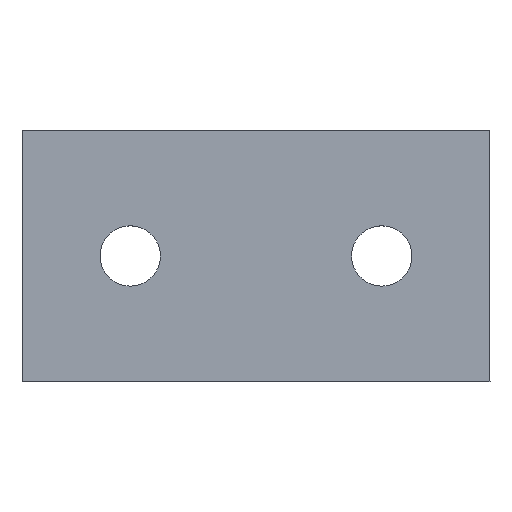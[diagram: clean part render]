
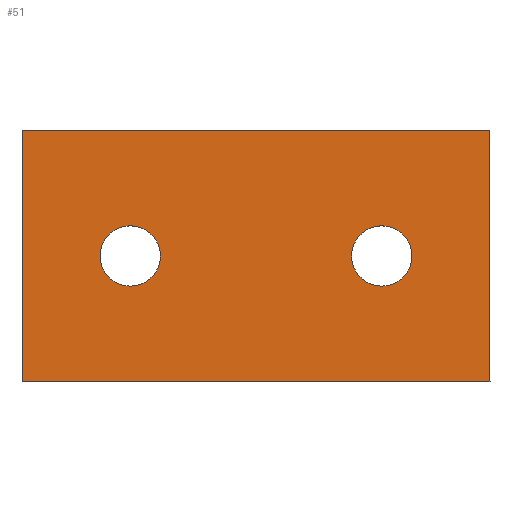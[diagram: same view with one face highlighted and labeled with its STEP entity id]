
A CAD part, top view. The second image highlights one B-rep face of the part: STEP entity #51.
In plain terms, the highlighted planar face has unit normal (0, 0, 1).
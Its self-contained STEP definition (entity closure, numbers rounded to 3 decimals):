
#13 = VECTOR ( 'NONE', #85, 1000. ) ;
#14 = CARTESIAN_POINT ( 'NONE',  ( -19., 0., 3. ) ) ;
#17 = AXIS2_PLACEMENT_3D ( 'NONE', #33, #174, #78 ) ;
#19 = EDGE_CURVE ( 'NONE', #257, #222, #177, .T. ) ;
#20 = DIRECTION ( 'NONE',  ( 0., 0., 1. ) ) ;
#22 = ORIENTED_EDGE ( 'NONE', *, *, #215, .F. ) ;
#29 = EDGE_CURVE ( 'NONE', #98, #257, #219, .T. ) ;
#33 = CARTESIAN_POINT ( 'NONE',  ( 0., 0., 3. ) ) ;
#35 = CARTESIAN_POINT ( 'NONE',  ( -46.5, 25., 3. ) ) ;
#51 = ADVANCED_FACE ( 'NONE', ( #269, #244, #104 ), #100, .F. ) ;
#53 = EDGE_CURVE ( 'NONE', #222, #107, #198, .T. ) ;
#55 = CARTESIAN_POINT ( 'NONE',  ( 46.5, -25., 3. ) ) ;
#57 = ORIENTED_EDGE ( 'NONE', *, *, #291, .F. ) ;
#59 = CARTESIAN_POINT ( 'NONE',  ( -46.5, -25., 3. ) ) ;
#60 = CARTESIAN_POINT ( 'NONE',  ( 31., 0., 3. ) ) ;
#63 = VERTEX_POINT ( 'NONE', #60 ) ;
#65 = CIRCLE ( 'NONE', #262, 6. ) ;
#77 = CIRCLE ( 'NONE', #277, 6. ) ;
#78 = DIRECTION ( 'NONE',  ( -1., 0., 0. ) ) ;
#79 = DIRECTION ( 'NONE',  ( -1., 0., 0. ) ) ;
#85 = DIRECTION ( 'NONE',  ( 1., 0., 0. ) ) ;
#92 = ORIENTED_EDGE ( 'NONE', *, *, #19, .T. ) ;
#98 = VERTEX_POINT ( 'NONE', #265 ) ;
#100 = PLANE ( 'NONE',  #17 ) ;
#103 = VECTOR ( 'NONE', #105, 1000. ) ;
#104 = FACE_OUTER_BOUND ( 'NONE', #191, .T. ) ;
#105 = DIRECTION ( 'NONE',  ( 0., -1., 0. ) ) ;
#107 = VERTEX_POINT ( 'NONE', #59 ) ;
#118 = EDGE_LOOP ( 'NONE', ( #57 ) ) ;
#120 = ORIENTED_EDGE ( 'NONE', *, *, #299, .T. ) ;
#127 = CARTESIAN_POINT ( 'NONE',  ( -46.5, 25., 3. ) ) ;
#146 = VECTOR ( 'NONE', #156, 1000. ) ;
#152 = EDGE_LOOP ( 'NONE', ( #22 ) ) ;
#156 = DIRECTION ( 'NONE',  ( 0., 1., 0. ) ) ;
#159 = LINE ( 'NONE', #298, #13 ) ;
#160 = CARTESIAN_POINT ( 'NONE',  ( -25., 0., 3. ) ) ;
#161 = CARTESIAN_POINT ( 'NONE',  ( 25., 0., 3. ) ) ;
#168 = ORIENTED_EDGE ( 'NONE', *, *, #29, .T. ) ;
#174 = DIRECTION ( 'NONE',  ( 0., 0., -1. ) ) ;
#177 = LINE ( 'NONE', #127, #253 ) ;
#191 = EDGE_LOOP ( 'NONE', ( #168, #92, #285, #120 ) ) ;
#198 = LINE ( 'NONE', #286, #103 ) ;
#204 = DIRECTION ( 'NONE',  ( 1., 0., 0. ) ) ;
#215 = EDGE_CURVE ( 'NONE', #63, #63, #65, .T. ) ;
#219 = LINE ( 'NONE', #55, #146 ) ;
#222 = VERTEX_POINT ( 'NONE', #35 ) ;
#227 = VERTEX_POINT ( 'NONE', #14 ) ;
#232 = CARTESIAN_POINT ( 'NONE',  ( 46.5, 25., 3. ) ) ;
#244 = FACE_BOUND ( 'NONE', #152, .T. ) ;
#253 = VECTOR ( 'NONE', #79, 1000. ) ;
#257 = VERTEX_POINT ( 'NONE', #232 ) ;
#262 = AXIS2_PLACEMENT_3D ( 'NONE', #161, #300, #273 ) ;
#265 = CARTESIAN_POINT ( 'NONE',  ( 46.5, -25., 3. ) ) ;
#269 = FACE_BOUND ( 'NONE', #118, .T. ) ;
#273 = DIRECTION ( 'NONE',  ( 1., 0., 0. ) ) ;
#277 = AXIS2_PLACEMENT_3D ( 'NONE', #160, #20, #204 ) ;
#285 = ORIENTED_EDGE ( 'NONE', *, *, #53, .T. ) ;
#286 = CARTESIAN_POINT ( 'NONE',  ( -46.5, -25., 3. ) ) ;
#291 = EDGE_CURVE ( 'NONE', #227, #227, #77, .T. ) ;
#298 = CARTESIAN_POINT ( 'NONE',  ( -46.5, -25., 3. ) ) ;
#299 = EDGE_CURVE ( 'NONE', #107, #98, #159, .T. ) ;
#300 = DIRECTION ( 'NONE',  ( 0., 0., 1. ) ) ;
